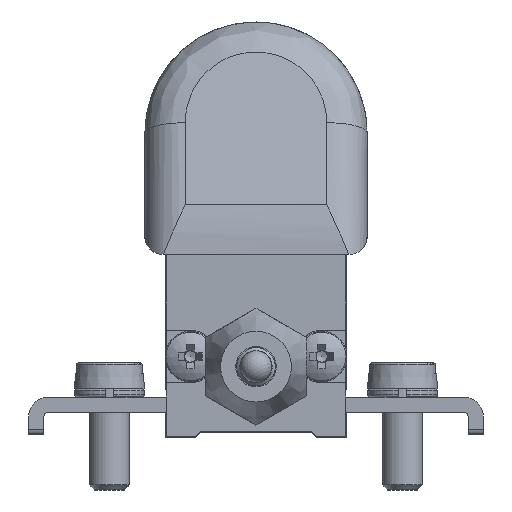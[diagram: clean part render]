
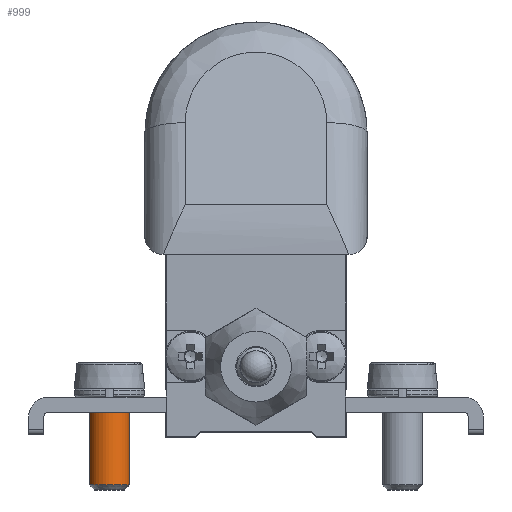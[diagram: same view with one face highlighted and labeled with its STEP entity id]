
A CAD part, front view. The second image highlights one B-rep face of the part: STEP entity #999.
In plain terms, the highlighted cylindrical face has radius 2 mm (diameter 4 mm), a full revolution.
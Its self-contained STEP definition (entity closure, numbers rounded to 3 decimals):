
#999 = ADVANCED_FACE( '', ( #2229, #2230 ), #2231, .T. );
#2229 = FACE_OUTER_BOUND( '', #4656, .T. );
#2230 = FACE_OUTER_BOUND( '', #4657, .T. );
#2231 = CYLINDRICAL_SURFACE( '', #4658, 2. );
#4656 = EDGE_LOOP( '', ( #7102 ) );
#4657 = EDGE_LOOP( '', ( #7103 ) );
#4658 = AXIS2_PLACEMENT_3D( '', #7104, #7105, #7106 );
#7102 = ORIENTED_EDGE( '', *, *, #9089, .T. );
#7103 = ORIENTED_EDGE( '', *, *, #10004, .T. );
#7104 = CARTESIAN_POINT( '', ( -14.5, 11., 32.8 ) );
#7105 = DIRECTION( '', ( 0., 0., -1. ) );
#7106 = DIRECTION( '', ( 1., 0., 0. ) );
#9089 = EDGE_CURVE( '', #11420, #11420, #11421, .F. );
#10004 = EDGE_CURVE( '', #13061, #13061, #13062, .T. );
#11420 = VERTEX_POINT( '', #15631 );
#11421 = CIRCLE( '', #15632, 2. );
#13061 = VERTEX_POINT( '', #18683 );
#13062 = CIRCLE( '', #18684, 2. );
#15631 = CARTESIAN_POINT( '', ( -16.5, 11., -4.7 ) );
#15632 = AXIS2_PLACEMENT_3D( '', #22789, #22790, #22791 );
#18683 = CARTESIAN_POINT( '', ( -12.5, 11., 3.8 ) );
#18684 = AXIS2_PLACEMENT_3D( '', #24008, #24009, #24010 );
#22789 = CARTESIAN_POINT( '', ( -14.5, 11., -4.7 ) );
#22790 = DIRECTION( '', ( 0., 0., -1. ) );
#22791 = DIRECTION( '', ( -1., 0., 0. ) );
#24008 = CARTESIAN_POINT( '', ( -14.5, 11., 3.8 ) );
#24009 = DIRECTION( '', ( 0., 0., -1. ) );
#24010 = DIRECTION( '', ( 1., 0., 0. ) );
